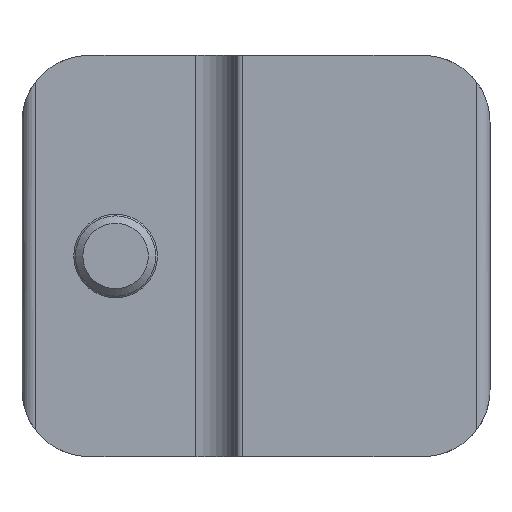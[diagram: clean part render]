
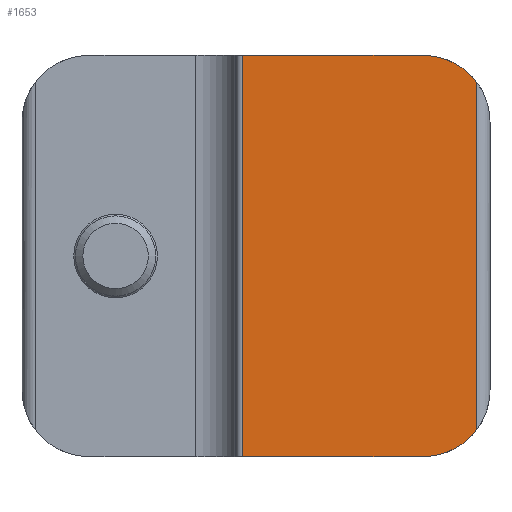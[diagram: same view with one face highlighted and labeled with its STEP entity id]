
A CAD part, left-side view. The second image highlights one B-rep face of the part: STEP entity #1653.
In plain terms, the highlighted planar face has unit normal (-1, 0, 0).
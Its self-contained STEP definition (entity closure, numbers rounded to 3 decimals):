
#18 = VERTEX_POINT ( 'NONE', #1136 ) ;
#24 = CARTESIAN_POINT ( 'NONE',  ( -11., 1.7, 15. ) ) ;
#57 = EDGE_LOOP ( 'NONE', ( #1134, #389, #87, #196, #1419, #1577 ) ) ;
#87 = ORIENTED_EDGE ( 'NONE', *, *, #521, .T. ) ;
#167 = AXIS2_PLACEMENT_3D ( 'NONE', #535, #1150, #751 ) ;
#168 = CARTESIAN_POINT ( 'NONE',  ( -11., -12.3, 10. ) ) ;
#196 = ORIENTED_EDGE ( 'NONE', *, *, #416, .T. ) ;
#202 = VECTOR ( 'NONE', #727, 1000. ) ;
#236 = VERTEX_POINT ( 'NONE', #568 ) ;
#246 = DIRECTION ( 'NONE',  ( 0., 0., 1. ) ) ;
#272 = CIRCLE ( 'NONE', #822, 5. ) ;
#321 = CARTESIAN_POINT ( 'NONE',  ( -11., -16.3, -13. ) ) ;
#376 = VERTEX_POINT ( 'NONE', #1053 ) ;
#389 = ORIENTED_EDGE ( 'NONE', *, *, #1368, .T. ) ;
#416 = EDGE_CURVE ( 'NONE', #236, #1400, #1182, .T. ) ;
#521 = EDGE_CURVE ( 'NONE', #1941, #236, #1594, .T. ) ;
#535 = CARTESIAN_POINT ( 'NONE',  ( -11., 1.7, 15. ) ) ;
#568 = CARTESIAN_POINT ( 'NONE',  ( -11., -16.3, 13. ) ) ;
#679 = FACE_OUTER_BOUND ( 'NONE', #57, .T. ) ;
#698 = VERTEX_POINT ( 'NONE', #893 ) ;
#727 = DIRECTION ( 'NONE',  ( 0., 0., -1. ) ) ;
#751 = DIRECTION ( 'NONE',  ( 0., 1., 0. ) ) ;
#822 = AXIS2_PLACEMENT_3D ( 'NONE', #1472, #1625, #1776 ) ;
#893 = CARTESIAN_POINT ( 'NONE',  ( -11., 1.2, -15. ) ) ;
#894 = LINE ( 'NONE', #1087, #202 ) ;
#930 = DIRECTION ( 'NONE',  ( 0., -1., 0. ) ) ;
#991 = AXIS2_PLACEMENT_3D ( 'NONE', #168, #1076, #1678 ) ;
#1027 = VECTOR ( 'NONE', #930, 1000. ) ;
#1053 = CARTESIAN_POINT ( 'NONE',  ( -11., -12.3, -15. ) ) ;
#1074 = EDGE_CURVE ( 'NONE', #698, #376, #1238, .T. ) ;
#1076 = DIRECTION ( 'NONE',  ( -1., 0., 0. ) ) ;
#1087 = CARTESIAN_POINT ( 'NONE',  ( -11., 1.2, 15. ) ) ;
#1134 = ORIENTED_EDGE ( 'NONE', *, *, #1074, .T. ) ;
#1135 = DIRECTION ( 'NONE',  ( 0., -1., 0. ) ) ;
#1136 = CARTESIAN_POINT ( 'NONE',  ( -11., 1.2, 15. ) ) ;
#1150 = DIRECTION ( 'NONE',  ( 1., 0., 0. ) ) ;
#1182 = CIRCLE ( 'NONE', #991, 5. ) ;
#1238 = LINE ( 'NONE', #1580, #1027 ) ;
#1289 = VECTOR ( 'NONE', #246, 1000. ) ;
#1302 = PLANE ( 'NONE',  #167 ) ;
#1326 = CARTESIAN_POINT ( 'NONE',  ( -11., -16.3, 15. ) ) ;
#1368 = EDGE_CURVE ( 'NONE', #376, #1941, #272, .T. ) ;
#1400 = VERTEX_POINT ( 'NONE', #1831 ) ;
#1406 = LINE ( 'NONE', #24, #1729 ) ;
#1419 = ORIENTED_EDGE ( 'NONE', *, *, #1950, .F. ) ;
#1472 = CARTESIAN_POINT ( 'NONE',  ( -11., -12.3, -10. ) ) ;
#1577 = ORIENTED_EDGE ( 'NONE', *, *, #1785, .T. ) ;
#1580 = CARTESIAN_POINT ( 'NONE',  ( -11., 1.7, -15. ) ) ;
#1594 = LINE ( 'NONE', #1326, #1289 ) ;
#1625 = DIRECTION ( 'NONE',  ( -1., 0., 0. ) ) ;
#1653 = ADVANCED_FACE ( 'NONE', ( #679 ), #1302, .F. ) ;
#1678 = DIRECTION ( 'NONE',  ( 0., 1., 0. ) ) ;
#1729 = VECTOR ( 'NONE', #1135, 1000. ) ;
#1776 = DIRECTION ( 'NONE',  ( 0., 1., 0. ) ) ;
#1785 = EDGE_CURVE ( 'NONE', #18, #698, #894, .T. ) ;
#1831 = CARTESIAN_POINT ( 'NONE',  ( -11., -12.3, 15. ) ) ;
#1941 = VERTEX_POINT ( 'NONE', #321 ) ;
#1950 = EDGE_CURVE ( 'NONE', #18, #1400, #1406, .T. ) ;
